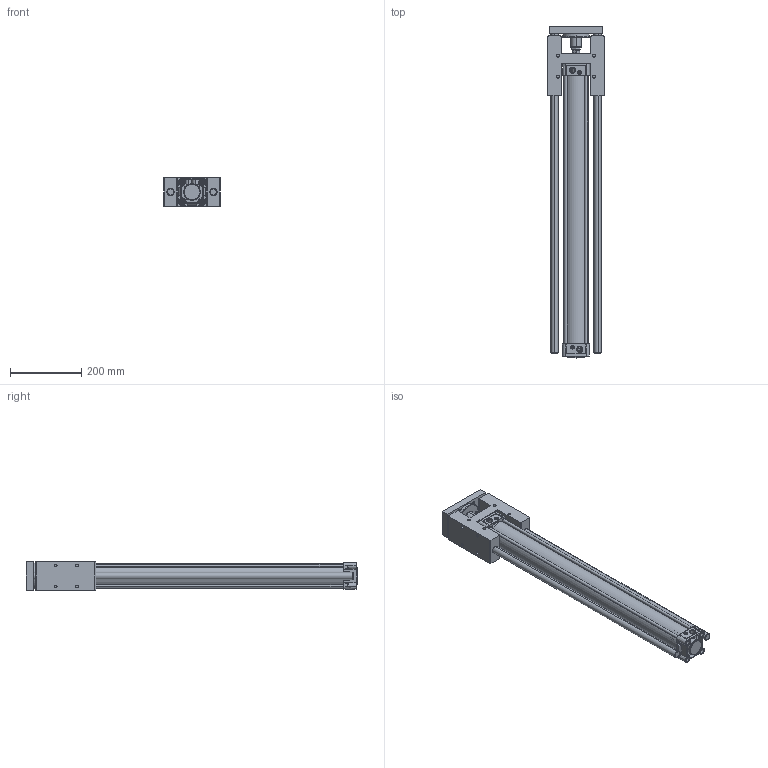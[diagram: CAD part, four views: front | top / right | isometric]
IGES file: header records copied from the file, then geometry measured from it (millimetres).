
Start section: SolidWorks IGES file using analytic representation for surfaces
Global section: file name: D:\ARICA 3D 禽Z軲LER\3D IGES\DNC-H\TDNC\63\TDNC63X700H-YATAK.IGS,1; native system: 5HSolidWorks 2013; preprocessor: SolidWorks 2013; author: user; date: 160518.165636; units: millimetre
Bounding box: 157 x 928.7 x 80.5 mm (x, y, z)
Surface area: 879644.9 mm2 (no closed solid volume)
Topology: 0 solids, 0 shells, 1026 faces, 18654 edges, 18644 vertices
Faces by surface type: revolution 611, bspline 415
